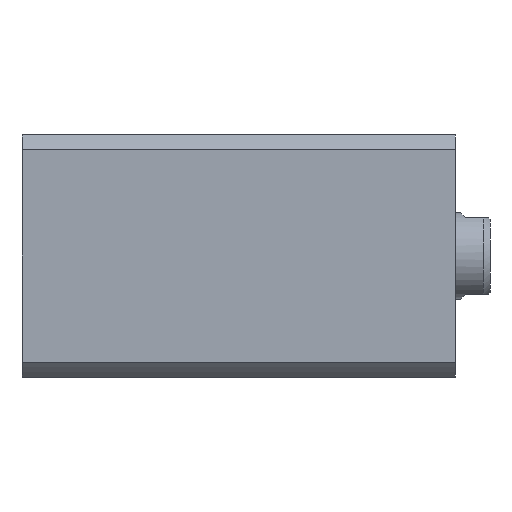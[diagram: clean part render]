
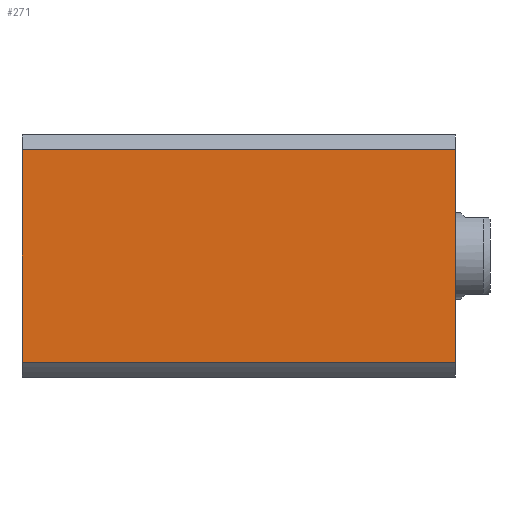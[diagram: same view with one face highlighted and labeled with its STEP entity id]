
A CAD part, left-side view. The second image highlights one B-rep face of the part: STEP entity #271.
In plain terms, the highlighted planar face has unit normal (-1, 0, 0) as drawn and (0, 1, 0) by its records, which use the part's own axes.
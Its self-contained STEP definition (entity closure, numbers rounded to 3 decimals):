
#271 = ADVANCED_FACE ( 'NONE', ( #6393 ), #1288, .F. ) ;
#286 = CARTESIAN_POINT ( 'NONE',  ( 30.615, 35., 125. ) ) ;
#472 = DIRECTION ( 'NONE',  ( 0., -1., 0. ) ) ;
#556 = LINE ( 'NONE', #6587, #8554 ) ;
#588 = ORIENTED_EDGE ( 'NONE', *, *, #5499, .T. ) ;
#804 = VERTEX_POINT ( 'NONE', #4092 ) ;
#1274 = VECTOR ( 'NONE', #2061, 1000. ) ;
#1288 = PLANE ( 'NONE',  #8599 ) ;
#1303 = EDGE_CURVE ( 'NONE', #2221, #804, #5920, .T. ) ;
#1433 = EDGE_CURVE ( 'NONE', #7045, #5561, #556, .T. ) ;
#1758 = VECTOR ( 'NONE', #6684, 1000. ) ;
#1977 = DIRECTION ( 'NONE',  ( 0., 0., -1. ) ) ;
#2061 = DIRECTION ( 'NONE',  ( -1., 0., 0. ) ) ;
#2162 = EDGE_CURVE ( 'NONE', #5561, #2221, #7481, .T. ) ;
#2221 = VERTEX_POINT ( 'NONE', #5228 ) ;
#2649 = LINE ( 'NONE', #2670, #4703 ) ;
#2670 = CARTESIAN_POINT ( 'NONE',  ( -35., 35., 0. ) ) ;
#2722 = DIRECTION ( 'NONE',  ( 0., 0., 1. ) ) ;
#2946 = CARTESIAN_POINT ( 'NONE',  ( -30.615, 35., 300. ) ) ;
#3423 = DIRECTION ( 'NONE',  ( -1., 0., 0. ) ) ;
#4092 = CARTESIAN_POINT ( 'NONE',  ( -30.615, 35., 0. ) ) ;
#4393 = CARTESIAN_POINT ( 'NONE',  ( -35., 35., 125. ) ) ;
#4703 = VECTOR ( 'NONE', #3423, 1000. ) ;
#5228 = CARTESIAN_POINT ( 'NONE',  ( -30.615, 35., 125. ) ) ;
#5499 = EDGE_CURVE ( 'NONE', #7045, #804, #2649, .T. ) ;
#5561 = VERTEX_POINT ( 'NONE', #286 ) ;
#5890 = ORIENTED_EDGE ( 'NONE', *, *, #1433, .F. ) ;
#5920 = LINE ( 'NONE', #2946, #1758 ) ;
#6019 = CARTESIAN_POINT ( 'NONE',  ( 30.615, 35., 0. ) ) ;
#6116 = ORIENTED_EDGE ( 'NONE', *, *, #2162, .F. ) ;
#6393 = FACE_OUTER_BOUND ( 'NONE', #8187, .T. ) ;
#6587 = CARTESIAN_POINT ( 'NONE',  ( 30.615, 35., 300. ) ) ;
#6684 = DIRECTION ( 'NONE',  ( 0., 0., -1. ) ) ;
#7027 = ORIENTED_EDGE ( 'NONE', *, *, #1303, .F. ) ;
#7045 = VERTEX_POINT ( 'NONE', #6019 ) ;
#7481 = LINE ( 'NONE', #8269, #1274 ) ;
#8187 = EDGE_LOOP ( 'NONE', ( #7027, #6116, #5890, #588 ) ) ;
#8269 = CARTESIAN_POINT ( 'NONE',  ( -35., 35., 125. ) ) ;
#8554 = VECTOR ( 'NONE', #2722, 1000. ) ;
#8599 = AXIS2_PLACEMENT_3D ( 'NONE', #4393, #472, #1977 ) ;
